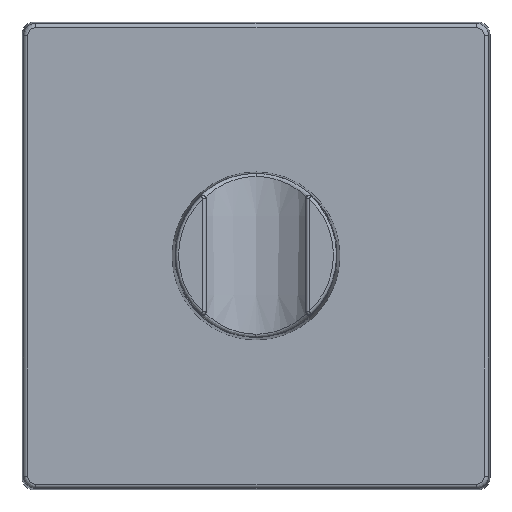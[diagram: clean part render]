
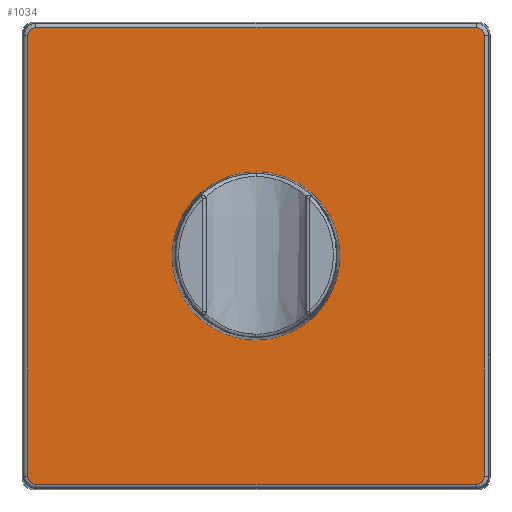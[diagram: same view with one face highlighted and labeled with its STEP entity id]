
A CAD part, top view. The second image highlights one B-rep face of the part: STEP entity #1034.
In plain terms, the highlighted planar face has unit normal (0, 0, 1).
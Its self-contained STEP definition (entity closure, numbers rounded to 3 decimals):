
#9=CARTESIAN_POINT('',(35.28,40.328,7.));
#10=CARTESIAN_POINT('',(35.45,40.328,7.));
#11=CARTESIAN_POINT('',(35.791,40.26,7.));
#12=CARTESIAN_POINT('',(36.223,39.971,7.));
#13=CARTESIAN_POINT('',(36.512,39.539,7.));
#14=CARTESIAN_POINT('',(36.58,39.199,7.));
#15=CARTESIAN_POINT('',(36.58,39.029,7.));
#46=DIRECTION('',(0.,-1.,0.));
#47=VECTOR('',#46,70.561);
#48=CARTESIAN_POINT('',(36.58,39.029,7.));
#49=LINE('',#48,#47);
#63=CARTESIAN_POINT('',(36.58,-31.532,7.));
#64=CARTESIAN_POINT('',(36.58,-31.702,7.));
#65=CARTESIAN_POINT('',(36.512,-32.042,7.));
#66=CARTESIAN_POINT('',(36.223,-32.475,7.));
#67=CARTESIAN_POINT('',(35.791,-32.764,7.));
#68=CARTESIAN_POINT('',(35.45,-32.831,7.));
#69=CARTESIAN_POINT('',(35.28,-32.831,7.));
#100=DIRECTION('',(1.,0.,0.));
#101=VECTOR('',#100,70.561);
#102=CARTESIAN_POINT('',(-35.28,40.328,7.));
#103=LINE('',#102,#101);
#117=CARTESIAN_POINT('',(-36.58,39.029,7.));
#118=CARTESIAN_POINT('',(-36.58,39.199,7.));
#119=CARTESIAN_POINT('',(-36.512,39.539,7.));
#120=CARTESIAN_POINT('',(-36.223,39.971,7.));
#121=CARTESIAN_POINT('',(-35.791,40.26,7.));
#122=CARTESIAN_POINT('',(-35.45,40.328,7.));
#123=CARTESIAN_POINT('',(-35.28,40.328,7.));
#154=DIRECTION('',(0.,1.,0.));
#155=VECTOR('',#154,70.561);
#156=CARTESIAN_POINT('',(-36.58,-31.532,7.));
#157=LINE('',#156,#155);
#171=CARTESIAN_POINT('',(-35.28,-32.831,7.));
#172=CARTESIAN_POINT('',(-35.45,-32.831,7.));
#173=CARTESIAN_POINT('',(-35.791,-32.764,7.));
#174=CARTESIAN_POINT('',(-36.223,-32.475,7.));
#175=CARTESIAN_POINT('',(-36.512,-32.042,7.));
#176=CARTESIAN_POINT('',(-36.58,-31.702,7.));
#177=CARTESIAN_POINT('',(-36.58,-31.532,7.));
#208=DIRECTION('',(-1.,0.,0.));
#209=VECTOR('',#208,70.561);
#210=CARTESIAN_POINT('',(35.28,-32.831,7.));
#211=LINE('',#210,#209);
#217=CARTESIAN_POINT('',(0.,3.748,7.));
#218=DIRECTION('',(0.,0.,-1.));
#219=DIRECTION('',(0.,-1.,0.));
#220=AXIS2_PLACEMENT_3D('',#217,#218,#219);
#294=CARTESIAN_POINT('',(0.,3.748,7.));
#295=DIRECTION('',(0.,0.,-1.));
#296=DIRECTION('',(0.,1.,0.));
#297=AXIS2_PLACEMENT_3D('',#294,#295,#296);
#723=VERTEX_POINT('',#63);
#724=VERTEX_POINT('',#69);
#725=CARTESIAN_POINT('',(-35.28,40.328,7.));
#726=CARTESIAN_POINT('',(35.28,40.328,7.));
#727=VERTEX_POINT('',#725);
#728=VERTEX_POINT('',#726);
#729=VERTEX_POINT('',#117);
#730=CARTESIAN_POINT('',(36.58,39.029,7.));
#731=VERTEX_POINT('',#730);
#732=CARTESIAN_POINT('',(-36.58,-31.532,7.));
#733=VERTEX_POINT('',#732);
#734=VERTEX_POINT('',#171);
#771=CARTESIAN_POINT('',(0.,-9.713,7.));
#772=CARTESIAN_POINT('',(0.,17.21,7.));
#773=VERTEX_POINT('',#771);
#774=VERTEX_POINT('',#772);
#1009=CARTESIAN_POINT('',(0.,3.748,7.));
#1010=DIRECTION('',(0.,0.,1.));
#1011=DIRECTION('',(0.,1.,0.));
#1012=AXIS2_PLACEMENT_3D('',#1009,#1010,#1011);
#1013=PLANE('',#1012);
#1015=ORIENTED_EDGE('',*,*,#1014,.T.);
#1016=ORIENTED_EDGE('',*,*,#1002,.T.);
#1017=ORIENTED_EDGE('',*,*,#829,.T.);
#1018=ORIENTED_EDGE('',*,*,#874,.T.);
#1019=ORIENTED_EDGE('',*,*,#934,.T.);
#1021=ORIENTED_EDGE('',*,*,#1020,.T.);
#1023=ORIENTED_EDGE('',*,*,#1022,.T.);
#1025=ORIENTED_EDGE('',*,*,#1024,.T.);
#1026=EDGE_LOOP('',(#1015,#1016,#1017,#1018,#1019,#1021,#1023,#1025));
#1027=FACE_OUTER_BOUND('',#1026,.F.);
#1029=ORIENTED_EDGE('',*,*,#1028,.F.);
#1031=ORIENTED_EDGE('',*,*,#1030,.F.);
#1032=EDGE_LOOP('',(#1029,#1031));
#1033=FACE_BOUND('',#1032,.F.);
#1034=ADVANCED_FACE('',(#1027,#1033),#1013,.T.);
#16=B_SPLINE_CURVE_WITH_KNOTS('',3,(#9,#10,#11,#12,#13,#14,#15),.UNSPECIFIED.,
.F.,.F.,(4,1,1,1,4),(0.,0.25,0.5,0.75,1.),.UNSPECIFIED.);
#70=B_SPLINE_CURVE_WITH_KNOTS('',3,(#63,#64,#65,#66,#67,#68,#69),.UNSPECIFIED.,
.F.,.F.,(4,1,1,1,4),(0.,0.25,0.5,0.75,1.),.UNSPECIFIED.);
#124=B_SPLINE_CURVE_WITH_KNOTS('',3,(#117,#118,#119,#120,#121,#122,#123),
.UNSPECIFIED.,.F.,.F.,(4,1,1,1,4),(0.,0.25,0.5,0.75,1.),
.UNSPECIFIED.);
#178=B_SPLINE_CURVE_WITH_KNOTS('',3,(#171,#172,#173,#174,#175,#176,#177),
.UNSPECIFIED.,.F.,.F.,(4,1,1,1,4),(0.,0.25,0.5,0.75,1.),
.UNSPECIFIED.);
#221=CIRCLE('',#220,13.461);
#298=CIRCLE('',#297,13.461);
#829=EDGE_CURVE('',#728,#731,#16,.T.);
#874=EDGE_CURVE('',#731,#723,#49,.T.);
#934=EDGE_CURVE('',#723,#724,#70,.T.);
#1002=EDGE_CURVE('',#727,#728,#103,.T.);
#1014=EDGE_CURVE('',#729,#727,#124,.T.);
#1020=EDGE_CURVE('',#724,#734,#211,.T.);
#1022=EDGE_CURVE('',#734,#733,#178,.T.);
#1024=EDGE_CURVE('',#733,#729,#157,.T.);
#1028=EDGE_CURVE('',#773,#774,#221,.T.);
#1030=EDGE_CURVE('',#774,#773,#298,.T.);
